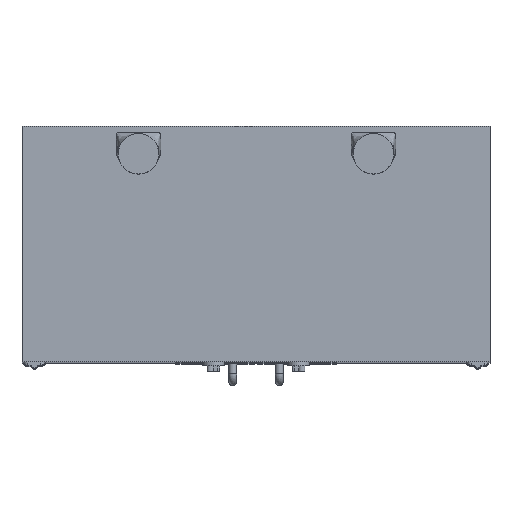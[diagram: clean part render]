
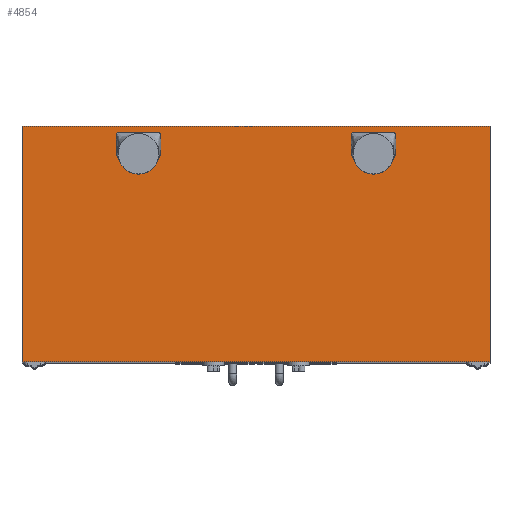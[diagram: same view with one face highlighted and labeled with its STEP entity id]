
A CAD part, top view. The second image highlights one B-rep face of the part: STEP entity #4854.
In plain terms, the highlighted planar face has unit normal (0, 0, 1).
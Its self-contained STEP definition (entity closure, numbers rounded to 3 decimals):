
#180=CIRCLE('',#5139,5.);
#181=CIRCLE('',#5140,5.);
#182=CIRCLE('',#5141,5.);
#183=CIRCLE('',#5142,5.);
#184=CIRCLE('',#5143,5.);
#185=CIRCLE('',#5144,5.);
#186=CIRCLE('',#5145,5.);
#187=CIRCLE('',#5146,5.);
#368=LINE('',#6725,#716);
#428=LINE('',#6885,#776);
#429=LINE('',#6887,#777);
#430=LINE('',#6892,#778);
#431=LINE('',#6896,#779);
#432=LINE('',#6900,#780);
#433=LINE('',#6906,#781);
#434=LINE('',#6910,#782);
#435=LINE('',#6914,#783);
#436=LINE('',#6918,#784);
#437=LINE('',#6919,#785);
#438=LINE('',#6921,#786);
#716=VECTOR('',#5702,1000.);
#776=VECTOR('',#5854,1000.);
#777=VECTOR('',#5857,1000.);
#778=VECTOR('',#5860,1000.);
#779=VECTOR('',#5863,1000.);
#780=VECTOR('',#5866,1000.);
#781=VECTOR('',#5871,1000.);
#782=VECTOR('',#5874,1000.);
#783=VECTOR('',#5877,1000.);
#784=VECTOR('',#5880,1000.);
#785=VECTOR('',#5881,1000.);
#786=VECTOR('',#5882,1000.);
#1388=ORIENTED_EDGE('',*,*,#2239,.T.);
#1389=ORIENTED_EDGE('',*,*,#2240,.T.);
#1390=ORIENTED_EDGE('',*,*,#2241,.T.);
#1391=ORIENTED_EDGE('',*,*,#2242,.T.);
#1392=ORIENTED_EDGE('',*,*,#2243,.T.);
#1393=ORIENTED_EDGE('',*,*,#2244,.T.);
#1394=ORIENTED_EDGE('',*,*,#2245,.T.);
#1395=ORIENTED_EDGE('',*,*,#2246,.T.);
#1396=ORIENTED_EDGE('',*,*,#2247,.F.);
#1397=ORIENTED_EDGE('',*,*,#2248,.F.);
#1398=ORIENTED_EDGE('',*,*,#2249,.F.);
#1399=ORIENTED_EDGE('',*,*,#2250,.F.);
#1400=ORIENTED_EDGE('',*,*,#2251,.F.);
#1401=ORIENTED_EDGE('',*,*,#2252,.F.);
#1402=ORIENTED_EDGE('',*,*,#2253,.F.);
#1403=ORIENTED_EDGE('',*,*,#2254,.F.);
#1404=ORIENTED_EDGE('',*,*,#2255,.T.);
#1405=ORIENTED_EDGE('',*,*,#2256,.T.);
#1406=ORIENTED_EDGE('',*,*,#2156,.T.);
#1407=ORIENTED_EDGE('',*,*,#2238,.T.);
#2156=EDGE_CURVE('',#2614,#2613,#368,.T.);
#2238=EDGE_CURVE('',#2613,#2667,#428,.T.);
#2239=EDGE_CURVE('',#2668,#2669,#429,.T.);
#2240=EDGE_CURVE('',#2669,#2670,#180,.T.);
#2241=EDGE_CURVE('',#2670,#2671,#430,.T.);
#2242=EDGE_CURVE('',#2671,#2672,#181,.T.);
#2243=EDGE_CURVE('',#2672,#2673,#431,.T.);
#2244=EDGE_CURVE('',#2673,#2674,#182,.T.);
#2245=EDGE_CURVE('',#2674,#2675,#432,.T.);
#2246=EDGE_CURVE('',#2675,#2668,#183,.T.);
#2247=EDGE_CURVE('',#2676,#2677,#184,.T.);
#2248=EDGE_CURVE('',#2678,#2676,#433,.T.);
#2249=EDGE_CURVE('',#2679,#2678,#185,.T.);
#2250=EDGE_CURVE('',#2680,#2679,#434,.T.);
#2251=EDGE_CURVE('',#2681,#2680,#186,.T.);
#2252=EDGE_CURVE('',#2682,#2681,#435,.T.);
#2253=EDGE_CURVE('',#2683,#2682,#187,.T.);
#2254=EDGE_CURVE('',#2677,#2683,#436,.T.);
#2255=EDGE_CURVE('',#2667,#2684,#437,.T.);
#2256=EDGE_CURVE('',#2684,#2614,#438,.T.);
#2613=VERTEX_POINT('',#6724);
#2614=VERTEX_POINT('',#6726);
#2667=VERTEX_POINT('',#6884);
#2668=VERTEX_POINT('',#6888);
#2669=VERTEX_POINT('',#6889);
#2670=VERTEX_POINT('',#6891);
#2671=VERTEX_POINT('',#6893);
#2672=VERTEX_POINT('',#6895);
#2673=VERTEX_POINT('',#6897);
#2674=VERTEX_POINT('',#6899);
#2675=VERTEX_POINT('',#6901);
#2676=VERTEX_POINT('',#6904);
#2677=VERTEX_POINT('',#6905);
#2678=VERTEX_POINT('',#6907);
#2679=VERTEX_POINT('',#6909);
#2680=VERTEX_POINT('',#6911);
#2681=VERTEX_POINT('',#6913);
#2682=VERTEX_POINT('',#6915);
#2683=VERTEX_POINT('',#6917);
#2684=VERTEX_POINT('',#6920);
#2956=EDGE_LOOP('',(#1388,#1389,#1390,#1391,#1392,#1393,#1394,#1395));
#2957=EDGE_LOOP('',(#1396,#1397,#1398,#1399,#1400,#1401,#1402,#1403));
#2958=EDGE_LOOP('',(#1404,#1405,#1406,#1407));
#3180=FACE_BOUND('',#2956,.T.);
#3181=FACE_BOUND('',#2957,.T.);
#3182=FACE_BOUND('',#2958,.T.);
#3346=PLANE('',#5138);
#4854=ADVANCED_FACE('',(#3180,#3181,#3182),#3346,.T.);
#5138=AXIS2_PLACEMENT_3D('',#6886,#5855,#5856);
#5139=AXIS2_PLACEMENT_3D('',#6890,#5858,#5859);
#5140=AXIS2_PLACEMENT_3D('',#6894,#5861,#5862);
#5141=AXIS2_PLACEMENT_3D('',#6898,#5864,#5865);
#5142=AXIS2_PLACEMENT_3D('',#6902,#5867,#5868);
#5143=AXIS2_PLACEMENT_3D('',#6903,#5869,#5870);
#5144=AXIS2_PLACEMENT_3D('',#6908,#5872,#5873);
#5145=AXIS2_PLACEMENT_3D('',#6912,#5875,#5876);
#5146=AXIS2_PLACEMENT_3D('',#6916,#5878,#5879);
#5702=DIRECTION('',(-1.,0.,0.));
#5854=DIRECTION('',(0.,-1.,0.));
#5855=DIRECTION('',(0.,0.,1.));
#5856=DIRECTION('',(1.,0.,0.));
#5857=DIRECTION('',(-1.,0.,0.));
#5858=DIRECTION('',(0.,0.,-1.));
#5859=DIRECTION('',(0.,-1.,0.));
#5860=DIRECTION('',(0.,1.,0.));
#5861=DIRECTION('',(0.,0.,-1.));
#5862=DIRECTION('',(0.,-1.,0.));
#5863=DIRECTION('',(1.,0.,0.));
#5864=DIRECTION('',(0.,0.,-1.));
#5865=DIRECTION('',(0.,-1.,0.));
#5866=DIRECTION('',(0.,-1.,0.));
#5867=DIRECTION('',(0.,0.,-1.));
#5868=DIRECTION('',(0.,1.,0.));
#5869=DIRECTION('',(0.,0.,1.));
#5870=DIRECTION('',(0.,-1.,0.));
#5871=DIRECTION('',(0.,1.,0.));
#5872=DIRECTION('',(0.,0.,1.));
#5873=DIRECTION('',(0.,-1.,0.));
#5874=DIRECTION('',(1.,0.,0.));
#5875=DIRECTION('',(0.,0.,1.));
#5876=DIRECTION('',(0.,1.,0.));
#5877=DIRECTION('',(0.,-1.,0.));
#5878=DIRECTION('',(0.,0.,1.));
#5879=DIRECTION('',(0.,-1.,0.));
#5880=DIRECTION('',(-1.,0.,0.));
#5881=DIRECTION('',(1.,0.,0.));
#5882=DIRECTION('',(0.,1.,0.));
#6724=CARTESIAN_POINT('',(0.,601.,1955.));
#6725=CARTESIAN_POINT('',(1195.,601.,1955.));
#6726=CARTESIAN_POINT('',(1195.,601.,1955.));
#6884=CARTESIAN_POINT('',(0.,0.,1955.));
#6885=CARTESIAN_POINT('',(0.,601.,1955.));
#6886=CARTESIAN_POINT('',(0.,0.,1955.));
#6887=CARTESIAN_POINT('',(845.5,526.5,1955.));
#6888=CARTESIAN_POINT('',(949.5,526.5,1955.));
#6889=CARTESIAN_POINT('',(845.5,526.5,1955.));
#6890=CARTESIAN_POINT('',(845.5,531.5,1955.));
#6891=CARTESIAN_POINT('',(840.5,531.5,1955.));
#6892=CARTESIAN_POINT('',(840.5,579.5,1955.));
#6893=CARTESIAN_POINT('',(840.5,579.5,1955.));
#6894=CARTESIAN_POINT('',(845.5,579.5,1955.));
#6895=CARTESIAN_POINT('',(845.5,584.5,1955.));
#6896=CARTESIAN_POINT('',(949.5,584.5,1955.));
#6897=CARTESIAN_POINT('',(949.5,584.5,1955.));
#6898=CARTESIAN_POINT('',(949.5,579.5,1955.));
#6899=CARTESIAN_POINT('',(954.5,579.5,1955.));
#6900=CARTESIAN_POINT('',(954.5,531.5,1955.));
#6901=CARTESIAN_POINT('',(954.5,531.5,1955.));
#6902=CARTESIAN_POINT('',(949.5,531.5,1955.));
#6903=CARTESIAN_POINT('',(349.5,579.5,1955.));
#6904=CARTESIAN_POINT('',(354.5,579.5,1955.));
#6905=CARTESIAN_POINT('',(349.5,584.5,1955.));
#6906=CARTESIAN_POINT('',(354.5,531.5,1955.));
#6907=CARTESIAN_POINT('',(354.5,531.5,1955.));
#6908=CARTESIAN_POINT('',(349.5,531.5,1955.));
#6909=CARTESIAN_POINT('',(349.5,526.5,1955.));
#6910=CARTESIAN_POINT('',(245.5,526.5,1955.));
#6911=CARTESIAN_POINT('',(245.5,526.5,1955.));
#6912=CARTESIAN_POINT('',(245.5,531.5,1955.));
#6913=CARTESIAN_POINT('',(240.5,531.5,1955.));
#6914=CARTESIAN_POINT('',(240.5,579.5,1955.));
#6915=CARTESIAN_POINT('',(240.5,579.5,1955.));
#6916=CARTESIAN_POINT('',(245.5,579.5,1955.));
#6917=CARTESIAN_POINT('',(245.5,584.5,1955.));
#6918=CARTESIAN_POINT('',(349.5,584.5,1955.));
#6919=CARTESIAN_POINT('',(0.,0.,1955.));
#6920=CARTESIAN_POINT('',(1195.,0.,1955.));
#6921=CARTESIAN_POINT('',(1195.,0.,1955.));
